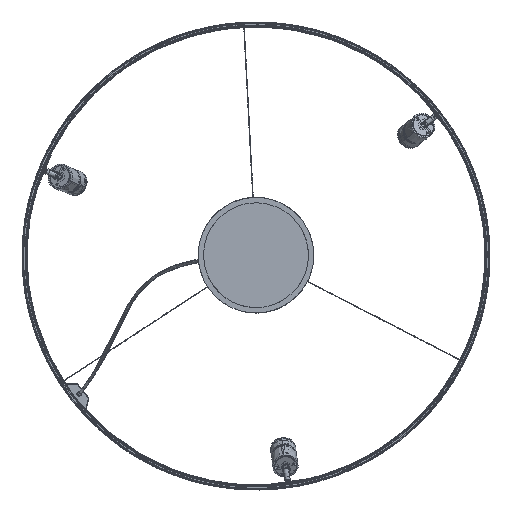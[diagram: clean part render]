
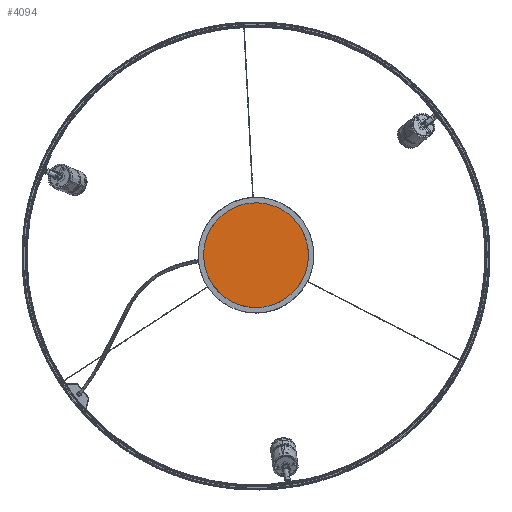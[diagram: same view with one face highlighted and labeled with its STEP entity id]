
A CAD part, top view. The second image highlights one B-rep face of the part: STEP entity #4094.
In plain terms, the highlighted planar face has unit normal (0, 0, 1).
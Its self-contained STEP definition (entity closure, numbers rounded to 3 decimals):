
#601=PLANE('',#27133);
#4094=ADVANCED_FACE('',(#5111),#601,.T.);
#5111=FACE_OUTER_BOUND('',#6202,.T.);
#6202=EDGE_LOOP('',(#11317,#11318));
#11317=ORIENTED_EDGE('',*,*,#16097,.T.);
#11318=ORIENTED_EDGE('',*,*,#16103,.T.);
#16097=EDGE_CURVE('',#25384,#25388,#20817,.T.);
#16103=EDGE_CURVE('',#25388,#25384,#20823,.T.);
#20817=(
BOUNDED_CURVE()
B_SPLINE_CURVE(2,(#96386,#96387,#96388,#96389,#96390),.UNSPECIFIED.,.F.,
 .F.)
B_SPLINE_CURVE_WITH_KNOTS((3,2,3),(0.,172.788,345.575),
 .UNSPECIFIED.)
CURVE()
GEOMETRIC_REPRESENTATION_ITEM()
RATIONAL_B_SPLINE_CURVE((1.,0.707,1.,0.707,1.))
REPRESENTATION_ITEM('')
);
#20823=(
BOUNDED_CURVE()
B_SPLINE_CURVE(2,(#96408,#96409,#96410,#96411,#96412),.UNSPECIFIED.,.F.,
 .F.)
B_SPLINE_CURVE_WITH_KNOTS((3,2,3),(345.575,518.363,691.15),
 .UNSPECIFIED.)
CURVE()
GEOMETRIC_REPRESENTATION_ITEM()
RATIONAL_B_SPLINE_CURVE((1.,0.707,1.,0.707,1.))
REPRESENTATION_ITEM('')
);
#25384=VERTEX_POINT('',#96380);
#25388=VERTEX_POINT('',#96384);
#27133=AXIS2_PLACEMENT_3D('',#96338,#27609,$);
#27609=DIRECTION('',(0.,0.,1.));
#96338=CARTESIAN_POINT('',(-167.669,98.487,1026.498));
#96380=CARTESIAN_POINT('',(27.673,-106.462,1026.498));
#96384=CARTESIAN_POINT('',(-27.673,106.462,1026.498));
#96386=CARTESIAN_POINT('',(27.673,-106.462,1026.498));
#96387=CARTESIAN_POINT('',(134.135,-78.79,1026.498));
#96388=CARTESIAN_POINT('',(106.462,27.673,1026.498));
#96389=CARTESIAN_POINT('',(78.79,134.135,1026.498));
#96390=CARTESIAN_POINT('',(-27.673,106.462,1026.498));
#96408=CARTESIAN_POINT('',(-27.673,106.462,1026.498));
#96409=CARTESIAN_POINT('',(-134.135,78.79,1026.498));
#96410=CARTESIAN_POINT('',(-106.462,-27.673,1026.498));
#96411=CARTESIAN_POINT('',(-78.79,-134.135,1026.498));
#96412=CARTESIAN_POINT('',(27.673,-106.462,1026.498));
